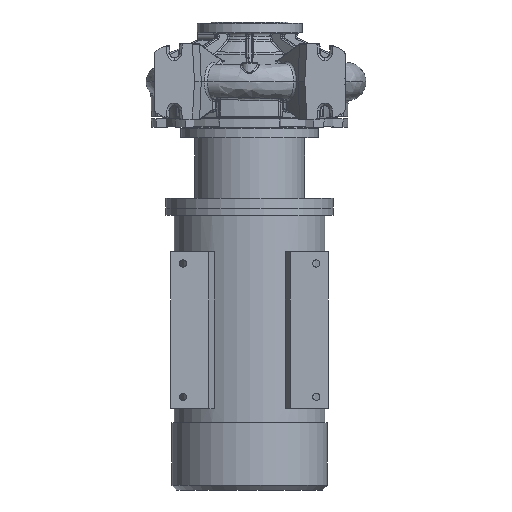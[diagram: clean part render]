
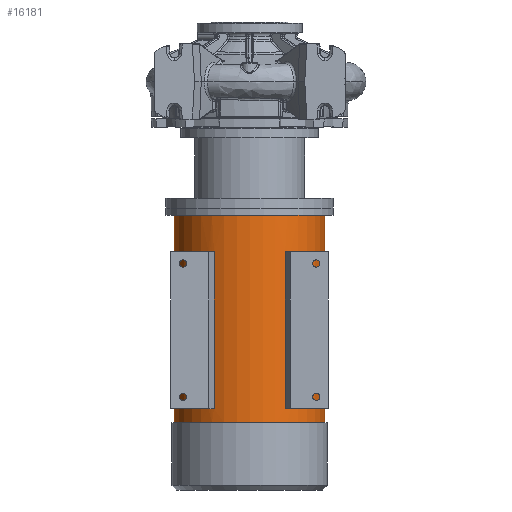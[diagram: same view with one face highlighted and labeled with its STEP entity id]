
A CAD part, front view. The second image highlights one B-rep face of the part: STEP entity #16181.
In plain terms, the highlighted cylindrical face has radius 157.5 mm (diameter 315 mm), a partial arc.
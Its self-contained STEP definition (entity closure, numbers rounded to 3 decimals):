
#906 = CARTESIAN_POINT ( 'NONE',  ( -157.5, 0., -854.3 ) ) ;
#1554 = AXIS2_PLACEMENT_3D ( 'NONE', #74191, #113076, #34889 ) ;
#1741 = CARTESIAN_POINT ( 'NONE',  ( -86.091, -131.889, -355.8 ) ) ;
#2489 = CARTESIAN_POINT ( 'NONE',  ( 157.5, 0., -279.3 ) ) ;
#5639 = VERTEX_POINT ( 'NONE', #97191 ) ;
#6658 = VECTOR ( 'NONE', #96251, 1000. ) ;
#8737 = EDGE_CURVE ( 'NONE', #74301, #114555, #32314, .T. ) ;
#10911 = DIRECTION ( 'NONE',  ( -1., 0., 0. ) ) ;
#11486 = AXIS2_PLACEMENT_3D ( 'NONE', #37297, #79549, #10911 ) ;
#11539 = DIRECTION ( 'NONE',  ( 0., 0., -1. ) ) ;
#12460 = ORIENTED_EDGE ( 'NONE', *, *, #125942, .F. ) ;
#12788 = CARTESIAN_POINT ( 'NONE',  ( 74.479, -138.777, -854.3 ) ) ;
#13980 = ORIENTED_EDGE ( 'NONE', *, *, #121184, .T. ) ;
#15306 = EDGE_CURVE ( 'NONE', #74301, #5639, #80829, .T. ) ;
#16181 = ADVANCED_FACE ( 'NONE', ( #30365, #100720, #18172 ), #89928, .T. ) ;
#17732 = EDGE_CURVE ( 'NONE', #78288, #78728, #102307, .T. ) ;
#18172 = FACE_BOUND ( 'NONE', #30709, .T. ) ;
#19014 = DIRECTION ( 'NONE',  ( 1., 0., 0. ) ) ;
#20946 = CIRCLE ( 'NONE', #11486, 157.5 ) ;
#21121 = CARTESIAN_POINT ( 'NONE',  ( -86.091, -131.889, -854.3 ) ) ;
#21373 = VERTEX_POINT ( 'NONE', #46939 ) ;
#25640 = VERTEX_POINT ( 'NONE', #67875 ) ;
#25816 = CARTESIAN_POINT ( 'NONE',  ( 86.091, -131.889, -854.3 ) ) ;
#26224 = ORIENTED_EDGE ( 'NONE', *, *, #94631, .T. ) ;
#30365 = FACE_OUTER_BOUND ( 'NONE', #34705, .T. ) ;
#30709 = EDGE_LOOP ( 'NONE', ( #45989, #26224, #43888, #87388 ) ) ;
#32314 = LINE ( 'NONE', #12788, #81215 ) ;
#33559 = CARTESIAN_POINT ( 'NONE',  ( 157.5, 0., -713.3 ) ) ;
#34705 = EDGE_LOOP ( 'NONE', ( #83969, #13980, #37910, #12460 ) ) ;
#34889 = DIRECTION ( 'NONE',  ( 1., 0., 0. ) ) ;
#35438 = DIRECTION ( 'NONE',  ( 0., 0., 1. ) ) ;
#35862 = CARTESIAN_POINT ( 'NONE',  ( 0., 0., -683.8 ) ) ;
#37297 = CARTESIAN_POINT ( 'NONE',  ( 0., 0., -713.3 ) ) ;
#37910 = ORIENTED_EDGE ( 'NONE', *, *, #78687, .T. ) ;
#42779 = VERTEX_POINT ( 'NONE', #33559 ) ;
#43888 = ORIENTED_EDGE ( 'NONE', *, *, #115963, .F. ) ;
#44119 = VECTOR ( 'NONE', #74902, 1000. ) ;
#44505 = AXIS2_PLACEMENT_3D ( 'NONE', #54322, #112897, #103471 ) ;
#44529 = CARTESIAN_POINT ( 'NONE',  ( -74.479, -138.777, -683.8 ) ) ;
#45989 = ORIENTED_EDGE ( 'NONE', *, *, #90712, .F. ) ;
#46939 = CARTESIAN_POINT ( 'NONE',  ( 86.091, -131.889, -355.8 ) ) ;
#47983 = CARTESIAN_POINT ( 'NONE',  ( 0., 0., -355.8 ) ) ;
#48081 = LINE ( 'NONE', #115216, #98477 ) ;
#51528 = DIRECTION ( 'NONE',  ( 0., 0., 1. ) ) ;
#53354 = CARTESIAN_POINT ( 'NONE',  ( -74.479, -138.777, -355.8 ) ) ;
#53819 = CIRCLE ( 'NONE', #94742, 157.5 ) ;
#53946 = LINE ( 'NONE', #87297, #6658 ) ;
#54322 = CARTESIAN_POINT ( 'NONE',  ( 0., 0., -279.3 ) ) ;
#59011 = VECTOR ( 'NONE', #80408, 1000. ) ;
#61519 = ORIENTED_EDGE ( 'NONE', *, *, #80753, .T. ) ;
#61968 = EDGE_CURVE ( 'NONE', #21373, #5639, #119048, .T. ) ;
#62757 = VERTEX_POINT ( 'NONE', #112295 ) ;
#64745 = ORIENTED_EDGE ( 'NONE', *, *, #15306, .F. ) ;
#67875 = CARTESIAN_POINT ( 'NONE',  ( -157.5, 0., -279.3 ) ) ;
#68155 = DIRECTION ( 'NONE',  ( -1., 0., 0. ) ) ;
#70191 = CIRCLE ( 'NONE', #44505, 157.5 ) ;
#72990 = AXIS2_PLACEMENT_3D ( 'NONE', #80695, #79421, #120422 ) ;
#73179 = AXIS2_PLACEMENT_3D ( 'NONE', #47983, #77054, #19014 ) ;
#74191 = CARTESIAN_POINT ( 'NONE',  ( 0., 0., -683.8 ) ) ;
#74301 = VERTEX_POINT ( 'NONE', #116705 ) ;
#74902 = DIRECTION ( 'NONE',  ( 0., 0., -1. ) ) ;
#74931 = ORIENTED_EDGE ( 'NONE', *, *, #8737, .T. ) ;
#76698 = VERTEX_POINT ( 'NONE', #2489 ) ;
#77054 = DIRECTION ( 'NONE',  ( 0., 0., -1. ) ) ;
#78288 = VERTEX_POINT ( 'NONE', #53354 ) ;
#78340 = CARTESIAN_POINT ( 'NONE',  ( 74.479, -138.777, -355.8 ) ) ;
#78687 = EDGE_CURVE ( 'NONE', #25640, #62757, #115444, .T. ) ;
#78728 = VERTEX_POINT ( 'NONE', #1741 ) ;
#79421 = DIRECTION ( 'NONE',  ( 0., 0., -1. ) ) ;
#79549 = DIRECTION ( 'NONE',  ( 0., 0., -1. ) ) ;
#79651 = DIRECTION ( 'NONE',  ( 0., 0., 1. ) ) ;
#80408 = DIRECTION ( 'NONE',  ( 0., 0., -1. ) ) ;
#80695 = CARTESIAN_POINT ( 'NONE',  ( 0., 0., -854.3 ) ) ;
#80753 = EDGE_CURVE ( 'NONE', #114555, #21373, #53819, .T. ) ;
#80829 = CIRCLE ( 'NONE', #95787, 157.5 ) ;
#81215 = VECTOR ( 'NONE', #51528, 1000. ) ;
#82284 = CIRCLE ( 'NONE', #1554, 157.5 ) ;
#83969 = ORIENTED_EDGE ( 'NONE', *, *, #106100, .F. ) ;
#85761 = ORIENTED_EDGE ( 'NONE', *, *, #61968, .T. ) ;
#86150 = DIRECTION ( 'NONE',  ( 0., 0., -1. ) ) ;
#87297 = CARTESIAN_POINT ( 'NONE',  ( -74.479, -138.777, -854.3 ) ) ;
#87388 = ORIENTED_EDGE ( 'NONE', *, *, #17732, .F. ) ;
#87807 = CARTESIAN_POINT ( 'NONE',  ( 0., 0., -355.8 ) ) ;
#89928 = CYLINDRICAL_SURFACE ( 'NONE', #72990, 157.5 ) ;
#90712 = EDGE_CURVE ( 'NONE', #111921, #78288, #53946, .T. ) ;
#94631 = EDGE_CURVE ( 'NONE', #111921, #117551, #82284, .T. ) ;
#94742 = AXIS2_PLACEMENT_3D ( 'NONE', #87807, #79651, #68155 ) ;
#95787 = AXIS2_PLACEMENT_3D ( 'NONE', #35862, #35438, #124324 ) ;
#96251 = DIRECTION ( 'NONE',  ( 0., 0., 1. ) ) ;
#97191 = CARTESIAN_POINT ( 'NONE',  ( 86.091, -131.889, -683.8 ) ) ;
#98477 = VECTOR ( 'NONE', #86150, 1000. ) ;
#100720 = FACE_BOUND ( 'NONE', #109392, .T. ) ;
#100939 = CARTESIAN_POINT ( 'NONE',  ( -86.091, -131.889, -683.8 ) ) ;
#102307 = CIRCLE ( 'NONE', #73179, 157.5 ) ;
#103471 = DIRECTION ( 'NONE',  ( -1., 0., 0. ) ) ;
#104881 = LINE ( 'NONE', #21121, #59011 ) ;
#106100 = EDGE_CURVE ( 'NONE', #76698, #42779, #48081, .T. ) ;
#109392 = EDGE_LOOP ( 'NONE', ( #64745, #74931, #61519, #85761 ) ) ;
#111921 = VERTEX_POINT ( 'NONE', #44529 ) ;
#112295 = CARTESIAN_POINT ( 'NONE',  ( -157.5, 0., -713.3 ) ) ;
#112897 = DIRECTION ( 'NONE',  ( 0., 0., -1. ) ) ;
#113076 = DIRECTION ( 'NONE',  ( 0., 0., -1. ) ) ;
#114555 = VERTEX_POINT ( 'NONE', #78340 ) ;
#115216 = CARTESIAN_POINT ( 'NONE',  ( 157.5, 0., -854.3 ) ) ;
#115444 = LINE ( 'NONE', #906, #118502 ) ;
#115963 = EDGE_CURVE ( 'NONE', #78728, #117551, #104881, .T. ) ;
#116705 = CARTESIAN_POINT ( 'NONE',  ( 74.479, -138.777, -683.8 ) ) ;
#117551 = VERTEX_POINT ( 'NONE', #100939 ) ;
#118502 = VECTOR ( 'NONE', #11539, 1000. ) ;
#119048 = LINE ( 'NONE', #25816, #44119 ) ;
#120422 = DIRECTION ( 'NONE',  ( -1., 0., 0. ) ) ;
#121184 = EDGE_CURVE ( 'NONE', #76698, #25640, #70191, .T. ) ;
#124324 = DIRECTION ( 'NONE',  ( -1., 0., 0. ) ) ;
#125942 = EDGE_CURVE ( 'NONE', #42779, #62757, #20946, .T. ) ;
